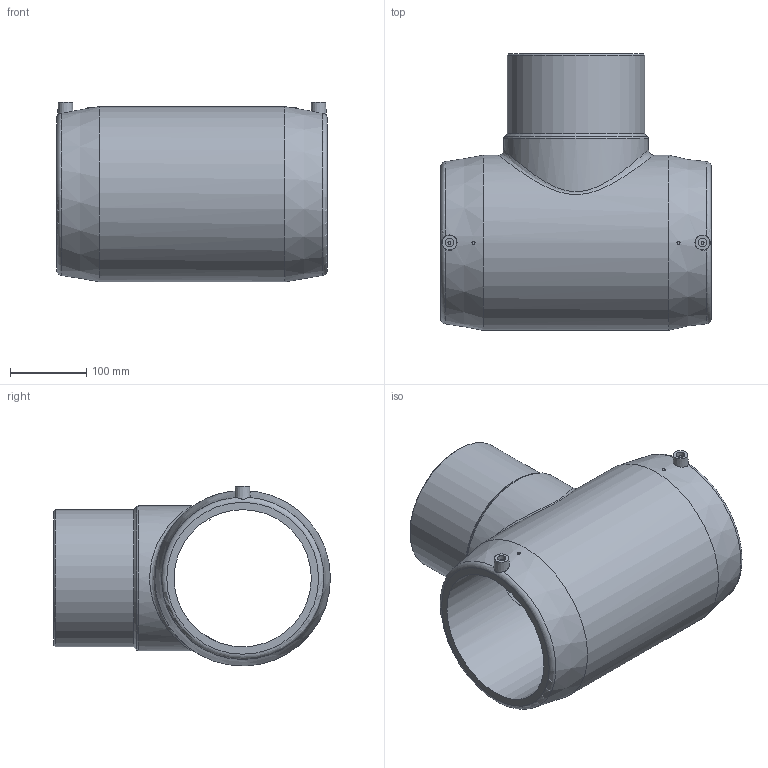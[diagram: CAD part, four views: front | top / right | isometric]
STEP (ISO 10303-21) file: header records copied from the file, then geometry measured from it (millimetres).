
FILE_DESCRIPTION(/* description */ ('Unknown'),/* implementation_level */ '2;1');
FILE_NAME(/* name */ 'TEP180C',/* time_stamp */ '2020-12-10T10:44:18+01:00',/* author */ ('Unknown'),/* organization */ ('Unknown'),/* preprocessor_version */ 'ST-DEVELOPER v16.7',/* originating_system */ 'Solid Edge',/* authorisation */ 'Unknown');
FILE_SCHEMA (('AUTOMOTIVE_DESIGN {1 0 10303 214 3 1 1}'));
Length unit declared in the file: millimetre
Products named in the file (1): TEP180C
Bounding box: 355 x 363 x 236 mm (x, y, z)
Volume: 6276053.6 mm3; surface area: 603436.8 mm2
Topology: 1 solids, 1 shells, 39 faces, 89 edges, 59 vertices
Faces by surface type: plane 14, cylinder 11, cone 8, torus 5, bspline 1
Full cylindrical faces by diameter (mm): 4 x4, 11.5 x2, 147.2 x1, 180 x2, 190 x1, 230 x1
Entity records: 1416 total; most frequent: CARTESIAN_POINT 699, DIRECTION 140, ORIENTED_EDGE 102, EDGE_LOOP 72, FACE_BOUND 72, AXIS2_PLACEMENT_3D 65, EDGE_CURVE 51, VERTEX_POINT 43
